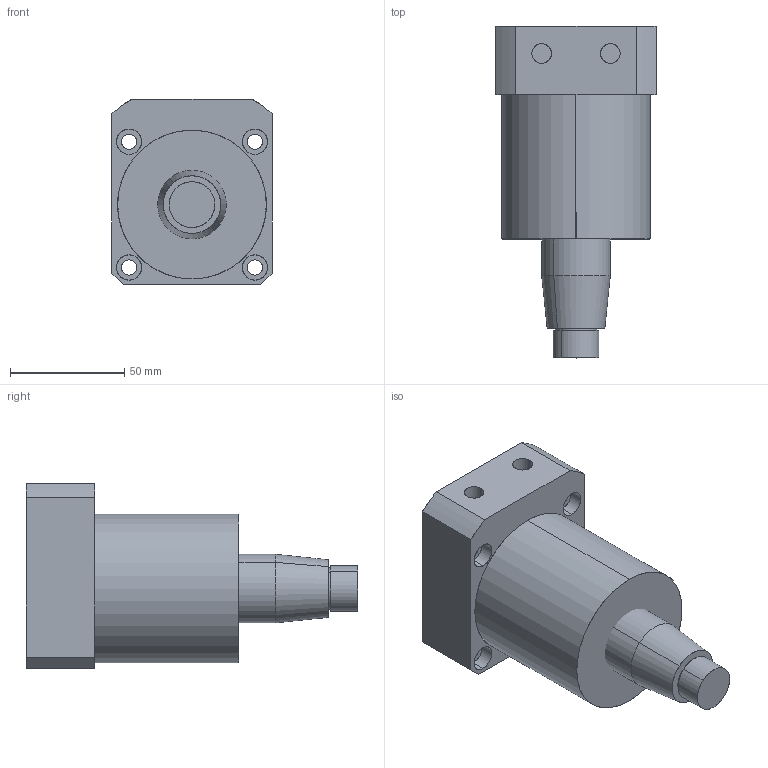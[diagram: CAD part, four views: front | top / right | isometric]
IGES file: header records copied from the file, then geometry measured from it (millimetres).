
Start section: SolidWorks IGES file using analytic representation for surfaces
Global section: file name: E:\karthik\CLASYS\Pneumatic Swing cylinders\Bottom cyl 0312\0312-0651\pneu 65.IGS; native system: SolidWorks 2010; preprocessor: SolidWorks 2010; author: karthik; date: 130914.165032; units: millimetre
Bounding box: 70 x 145 x 81 mm (x, y, z)
Surface area: 42901.8 mm2 (no closed solid volume)
Topology: 0 solids, 0 shells, 65 faces, 1340 edges, 1340 vertices
Faces by surface type: revolution 44, bspline 21
